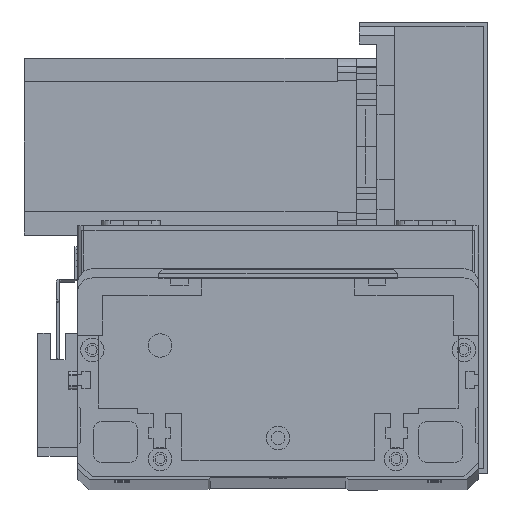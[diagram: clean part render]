
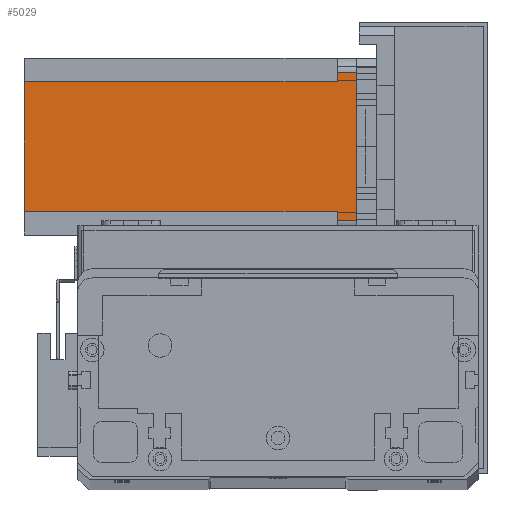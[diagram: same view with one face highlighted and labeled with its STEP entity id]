
A CAD part, top view. The second image highlights one B-rep face of the part: STEP entity #5029.
In plain terms, the highlighted planar face has unit normal (0, 0, 1) as drawn and (0, 1, 0) by its records, which use the part's own axes.
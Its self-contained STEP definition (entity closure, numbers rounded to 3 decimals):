
#134 = ORIENTED_EDGE ( 'NONE', *, *, #29331, .T. ) ;
#580 = VERTEX_POINT ( 'NONE', #25334 ) ;
#644 = ORIENTED_EDGE ( 'NONE', *, *, #27854, .T. ) ;
#772 = CARTESIAN_POINT ( 'NONE',  ( 8., 60., -112.5 ) ) ;
#805 = DIRECTION ( 'NONE',  ( 0., 0., 1. ) ) ;
#2093 = ORIENTED_EDGE ( 'NONE', *, *, #28773, .F. ) ;
#3004 = LINE ( 'NONE', #8948, #21875 ) ;
#4183 = VERTEX_POINT ( 'NONE', #772 ) ;
#4263 = VERTEX_POINT ( 'NONE', #10399 ) ;
#4457 = ORIENTED_EDGE ( 'NONE', *, *, #29639, .T. ) ;
#4941 = LINE ( 'NONE', #29838, #29480 ) ;
#5029 = ADVANCED_FACE ( 'NONE', ( #24090 ), #8134, .T. ) ;
#5763 = DIRECTION ( 'NONE',  ( 0., 0., 1. ) ) ;
#5877 = DIRECTION ( 'NONE',  ( 0., 1., 0. ) ) ;
#6901 = VERTEX_POINT ( 'NONE', #19297 ) ;
#7011 = VECTOR ( 'NONE', #18778, 1000. ) ;
#7464 = ORIENTED_EDGE ( 'NONE', *, *, #20424, .F. ) ;
#7767 = VERTEX_POINT ( 'NONE', #24660 ) ;
#7800 = VERTEX_POINT ( 'NONE', #23138 ) ;
#8134 = PLANE ( 'NONE',  #27504 ) ;
#8779 = EDGE_CURVE ( 'NONE', #4263, #580, #29969, .T. ) ;
#8877 = CARTESIAN_POINT ( 'NONE',  ( 0., 60., -112.5 ) ) ;
#8948 = CARTESIAN_POINT ( 'NONE',  ( 8., 60., -6.5 ) ) ;
#9960 = ORIENTED_EDGE ( 'NONE', *, *, #8779, .F. ) ;
#10399 = CARTESIAN_POINT ( 'NONE',  ( 55., 60., 0. ) ) ;
#10467 = EDGE_LOOP ( 'NONE', ( #9960, #14650, #7464, #15074, #644, #2093, #134, #4457 ) ) ;
#10673 = CARTESIAN_POINT ( 'NONE',  ( 5., 60., -112.5 ) ) ;
#12197 = VERTEX_POINT ( 'NONE', #27825 ) ;
#12239 = VECTOR ( 'NONE', #22064, 1000. ) ;
#13220 = DIRECTION ( 'NONE',  ( 0., 0., -1. ) ) ;
#13264 = VECTOR ( 'NONE', #16872, 1000. ) ;
#14142 = DIRECTION ( 'NONE',  ( 0., 0., -1. ) ) ;
#14144 = CARTESIAN_POINT ( 'NONE',  ( 52., 60., -6.5 ) ) ;
#14445 = LINE ( 'NONE', #29026, #20563 ) ;
#14650 = ORIENTED_EDGE ( 'NONE', *, *, #20164, .T. ) ;
#15074 = ORIENTED_EDGE ( 'NONE', *, *, #26601, .F. ) ;
#16872 = DIRECTION ( 'NONE',  ( 0., 0., 1. ) ) ;
#18162 = VECTOR ( 'NONE', #22986, 1000. ) ;
#18778 = DIRECTION ( 'NONE',  ( 1., 0., 0. ) ) ;
#19000 = VECTOR ( 'NONE', #805, 1000. ) ;
#19297 = CARTESIAN_POINT ( 'NONE',  ( 5., 60., -6.5 ) ) ;
#19397 = LINE ( 'NONE', #10673, #13264 ) ;
#19724 = LINE ( 'NONE', #28851, #19000 ) ;
#20164 = EDGE_CURVE ( 'NONE', #4263, #7800, #14445, .T. ) ;
#20424 = EDGE_CURVE ( 'NONE', #20452, #7800, #25451, .T. ) ;
#20452 = VERTEX_POINT ( 'NONE', #23408 ) ;
#20563 = VECTOR ( 'NONE', #13220, 1000. ) ;
#21875 = VECTOR ( 'NONE', #25060, 1000. ) ;
#22064 = DIRECTION ( 'NONE',  ( -1., 0., 0. ) ) ;
#22608 = CARTESIAN_POINT ( 'NONE',  ( 0., 60., 0. ) ) ;
#22986 = DIRECTION ( 'NONE',  ( -1., 0., 0. ) ) ;
#23138 = CARTESIAN_POINT ( 'NONE',  ( 55., 60., -6.5 ) ) ;
#23408 = CARTESIAN_POINT ( 'NONE',  ( 52., 60., -6.5 ) ) ;
#24090 = FACE_OUTER_BOUND ( 'NONE', #10467, .T. ) ;
#24453 = CARTESIAN_POINT ( 'NONE',  ( 0., 60., -112.5 ) ) ;
#24660 = CARTESIAN_POINT ( 'NONE',  ( 8., 60., -6.5 ) ) ;
#25060 = DIRECTION ( 'NONE',  ( -1., 0., 0. ) ) ;
#25334 = CARTESIAN_POINT ( 'NONE',  ( 5., 60., 0. ) ) ;
#25451 = LINE ( 'NONE', #14144, #7011 ) ;
#26601 = EDGE_CURVE ( 'NONE', #12197, #20452, #19724, .T. ) ;
#27504 = AXIS2_PLACEMENT_3D ( 'NONE', #8877, #5877, #5763 ) ;
#27825 = CARTESIAN_POINT ( 'NONE',  ( 52., 60., -112.5 ) ) ;
#27854 = EDGE_CURVE ( 'NONE', #12197, #4183, #28894, .T. ) ;
#28773 = EDGE_CURVE ( 'NONE', #7767, #4183, #4941, .T. ) ;
#28851 = CARTESIAN_POINT ( 'NONE',  ( 52., 60., -112.5 ) ) ;
#28894 = LINE ( 'NONE', #24453, #12239 ) ;
#29026 = CARTESIAN_POINT ( 'NONE',  ( 55., 60., -112.5 ) ) ;
#29331 = EDGE_CURVE ( 'NONE', #7767, #6901, #3004, .T. ) ;
#29480 = VECTOR ( 'NONE', #14142, 1000. ) ;
#29639 = EDGE_CURVE ( 'NONE', #6901, #580, #19397, .T. ) ;
#29838 = CARTESIAN_POINT ( 'NONE',  ( 8., 60., -112.5 ) ) ;
#29969 = LINE ( 'NONE', #22608, #18162 ) ;
